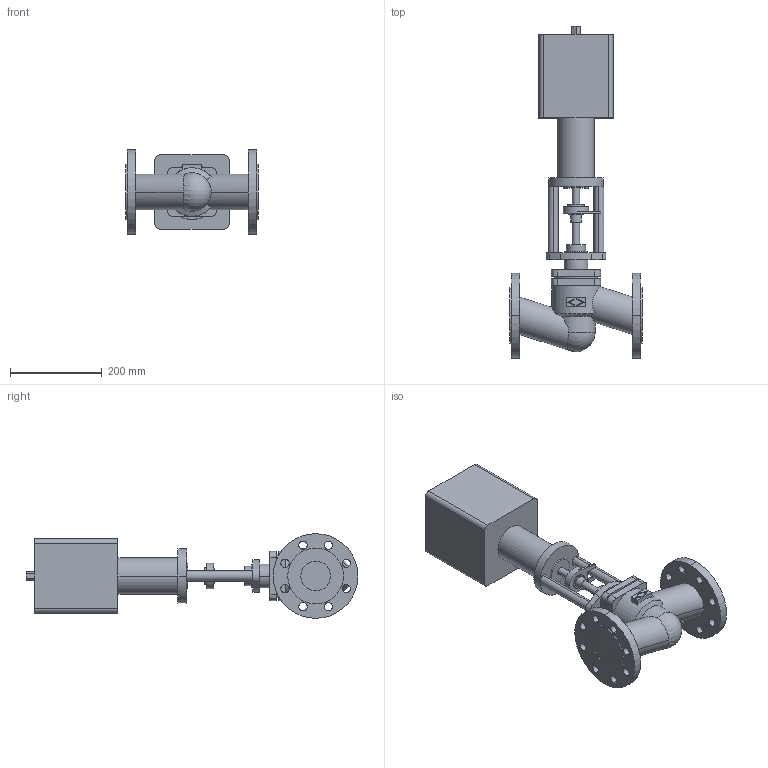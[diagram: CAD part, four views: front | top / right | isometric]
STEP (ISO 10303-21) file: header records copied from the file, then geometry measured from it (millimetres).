
FILE_DESCRIPTION( ( '' ), '1' );
FILE_NAME( 'F:/DE-SHS/TB/OR/04-Sonstiges/daten/files_3d/440-FR2.2/440-PN40-FR2_2/c000004542.stp', '2014-11-06T10:26:20', ( '' ), ( '' ), ' ', ' ', ' ' );
FILE_SCHEMA( ( 'CONFIG_CONTROL_DESIGN' ) );
Length unit declared in the file: millimetre
Products named in the file (2): 1; 2
Bounding box: 290 x 725.5 x 185 mm (x, y, z)
Volume: 9160965.5 mm3; surface area: 523403.3 mm2
Topology: 2 solids, 2 shells, 178 faces, 443 edges, 293 vertices
Faces by surface type: cylinder 98, plane 77, cone 2, sphere 1
Entity records: 6021 total; most frequent: CARTESIAN_POINT 1442, DIRECTION 995, ORIENTED_EDGE 882, EDGE_CURVE 441, AXIS2_PLACEMENT_3D 388, VERTEX_POINT 293, EDGE_LOOP 236, LINE 219
